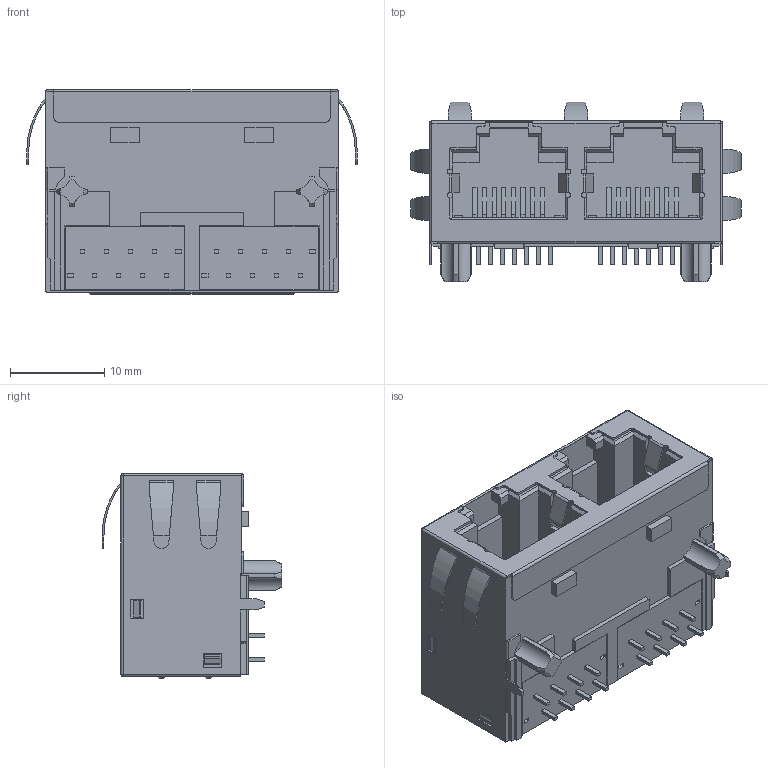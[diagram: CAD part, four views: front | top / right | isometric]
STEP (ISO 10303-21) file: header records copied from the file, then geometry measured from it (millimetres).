
FILE_DESCRIPTION((''),'2;1');
FILE_NAME('C-2301996-1','2017-05-03T',('workeradm'),('Tyco Electronics Ltd.'),'CREO PARAMETRIC BY PTC INC, 2016050','CREO PARAMETRIC BY PTC INC, 2016050','');
FILE_SCHEMA(('AUTOMOTIVE_DESIGN { 1 0 10303 214 1 1 1 1 }'));
Length unit declared in the file: millimetre
Products named in the file (1): C-2301996-1
Bounding box: 35 x 19.05 x 21.7 mm (x, y, z)
Volume: 6797.5 mm3; surface area: 4731.3 mm2
Topology: 1 solids, 1 shells, 712 faces, 1963 edges, 1282 vertices
Faces by surface type: plane 566, cylinder 126, cone 8, sphere 6, torus 4, bspline 2
Entity records: 22947 total; most frequent: CARTESIAN_POINT 4441, ORIENTED_EDGE 3926, DIRECTION 3591, EDGE_CURVE 1963, VECTOR 1623, LINE 1623, VERTEX_POINT 1282, AXIS2_PLACEMENT_3D 984
